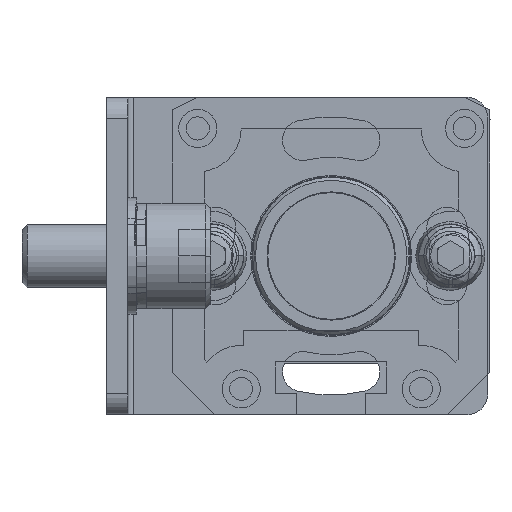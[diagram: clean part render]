
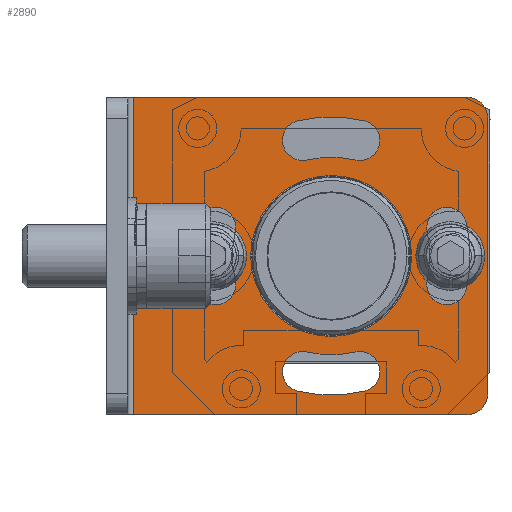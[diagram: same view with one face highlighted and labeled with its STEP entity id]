
A CAD part, front view. The second image highlights one B-rep face of the part: STEP entity #2890.
In plain terms, the highlighted planar face has unit normal (0, -1, 0).
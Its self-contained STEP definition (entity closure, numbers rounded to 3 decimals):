
#692=LINE('',#40670,#1452);
#697=LINE('',#40682,#1457);
#703=LINE('',#40698,#1463);
#707=LINE('',#40722,#1467);
#1452=VECTOR('',#13263,1.);
#1457=VECTOR('',#13272,1.);
#1463=VECTOR('',#13290,1.);
#1467=VECTOR('',#13320,1.);
#1962=PLANE('',#11082);
#2299=FACE_BOUND('',#4309,.T.);
#2300=FACE_BOUND('',#4310,.T.);
#2301=FACE_BOUND('',#4311,.T.);
#2302=FACE_BOUND('',#4312,.T.);
#2303=FACE_BOUND('',#4313,.T.);
#2304=FACE_BOUND('',#4314,.T.);
#2890=ADVANCED_FACE('',(#2299,#2300,#2301,#2302,#2303,#2304),#1962,.T.);
#4309=EDGE_LOOP('',(#6781,#6782,#6783,#6784));
#4310=EDGE_LOOP('',(#6785,#6786,#6787,#6788));
#4311=EDGE_LOOP('',(#6789,#6790,#6791,#6792));
#4312=EDGE_LOOP('',(#6793));
#4313=EDGE_LOOP('',(#6794,#6795,#6796,#6797));
#4314=EDGE_LOOP('',(#6798,#6799,#6800,#6801,#6802,#6803));
#6781=ORIENTED_EDGE('',*,*,#9603,.T.);
#6782=ORIENTED_EDGE('',*,*,#9604,.T.);
#6783=ORIENTED_EDGE('',*,*,#9542,.T.);
#6784=ORIENTED_EDGE('',*,*,#9605,.T.);
#6785=ORIENTED_EDGE('',*,*,#9606,.T.);
#6786=ORIENTED_EDGE('',*,*,#9546,.T.);
#6787=ORIENTED_EDGE('',*,*,#9607,.T.);
#6788=ORIENTED_EDGE('',*,*,#9550,.T.);
#6789=ORIENTED_EDGE('',*,*,#9608,.T.);
#6790=ORIENTED_EDGE('',*,*,#9554,.T.);
#6791=ORIENTED_EDGE('',*,*,#9609,.T.);
#6792=ORIENTED_EDGE('',*,*,#9558,.T.);
#6793=ORIENTED_EDGE('',*,*,#9563,.T.);
#6794=ORIENTED_EDGE('',*,*,#9610,.T.);
#6795=ORIENTED_EDGE('',*,*,#9611,.T.);
#6796=ORIENTED_EDGE('',*,*,#9612,.T.);
#6797=ORIENTED_EDGE('',*,*,#9564,.T.);
#6798=ORIENTED_EDGE('',*,*,#9613,.T.);
#6799=ORIENTED_EDGE('',*,*,#9614,.T.);
#6800=ORIENTED_EDGE('',*,*,#9598,.F.);
#6801=ORIENTED_EDGE('',*,*,#9584,.T.);
#6802=ORIENTED_EDGE('',*,*,#9590,.F.);
#6803=ORIENTED_EDGE('',*,*,#9615,.T.);
#8262=VERTEX_POINT('',#40580);
#8263=VERTEX_POINT('',#40581);
#8266=VERTEX_POINT('',#40589);
#8267=VERTEX_POINT('',#40590);
#8270=VERTEX_POINT('',#40598);
#8271=VERTEX_POINT('',#40599);
#8274=VERTEX_POINT('',#40607);
#8275=VERTEX_POINT('',#40608);
#8278=VERTEX_POINT('',#40616);
#8279=VERTEX_POINT('',#40617);
#8283=VERTEX_POINT('',#40627);
#8284=VERTEX_POINT('',#40630);
#8285=VERTEX_POINT('',#40631);
#8298=VERTEX_POINT('',#40667);
#8299=VERTEX_POINT('',#40669);
#8304=VERTEX_POINT('',#40681);
#8309=VERTEX_POINT('',#40699);
#8312=VERTEX_POINT('',#40709);
#8313=VERTEX_POINT('',#40710);
#8314=VERTEX_POINT('',#40718);
#8315=VERTEX_POINT('',#40720);
#8316=VERTEX_POINT('',#40723);
#8317=VERTEX_POINT('',#40724);
#9542=EDGE_CURVE('',#8262,#8263,#10244,.T.);
#9546=EDGE_CURVE('',#8266,#8267,#10246,.T.);
#9550=EDGE_CURVE('',#8270,#8271,#10248,.T.);
#9554=EDGE_CURVE('',#8274,#8275,#10250,.T.);
#9558=EDGE_CURVE('',#8278,#8279,#10252,.T.);
#9563=EDGE_CURVE('',#8283,#8283,#10255,.T.);
#9564=EDGE_CURVE('',#8284,#8285,#10256,.T.);
#9584=EDGE_CURVE('',#8298,#8299,#692,.T.);
#9590=EDGE_CURVE('',#8304,#8299,#697,.T.);
#9598=EDGE_CURVE('',#8298,#8309,#703,.T.);
#9603=EDGE_CURVE('',#8312,#8313,#10268,.T.);
#9604=EDGE_CURVE('',#8313,#8262,#10269,.T.);
#9605=EDGE_CURVE('',#8263,#8312,#10270,.T.);
#9606=EDGE_CURVE('',#8271,#8266,#10271,.T.);
#9607=EDGE_CURVE('',#8267,#8270,#10272,.T.);
#9608=EDGE_CURVE('',#8279,#8274,#10273,.T.);
#9609=EDGE_CURVE('',#8275,#8278,#10274,.T.);
#9610=EDGE_CURVE('',#8285,#8314,#10275,.T.);
#9611=EDGE_CURVE('',#8314,#8315,#10276,.T.);
#9612=EDGE_CURVE('',#8315,#8284,#10277,.T.);
#9613=EDGE_CURVE('',#8316,#8317,#707,.T.);
#9614=EDGE_CURVE('',#8317,#8309,#10278,.T.);
#9615=EDGE_CURVE('',#8304,#8316,#10279,.T.);
#10244=CIRCLE('',#11028,1.9);
#10246=CIRCLE('',#11031,13.15);
#10248=CIRCLE('',#11034,9.35);
#10250=CIRCLE('',#11037,1.9);
#10252=CIRCLE('',#11040,1.9);
#10255=CIRCLE('',#11044,7.6);
#10256=CIRCLE('',#11046,1.9);
#10268=CIRCLE('',#11070,1.9);
#10269=CIRCLE('',#11071,13.15);
#10270=CIRCLE('',#11072,9.35);
#10271=CIRCLE('',#11073,1.9);
#10272=CIRCLE('',#11074,1.9);
#10273=CIRCLE('',#11075,13.15);
#10274=CIRCLE('',#11076,9.35);
#10275=CIRCLE('',#11077,13.15);
#10276=CIRCLE('',#11078,1.9);
#10277=CIRCLE('',#11079,9.35);
#10278=CIRCLE('',#11080,2.);
#10279=CIRCLE('',#11081,2.);
#11028=AXIS2_PLACEMENT_3D('',#40579,#13179,#13180);
#11031=AXIS2_PLACEMENT_3D('',#40588,#13187,#13188);
#11034=AXIS2_PLACEMENT_3D('',#40597,#13195,#13196);
#11037=AXIS2_PLACEMENT_3D('',#40606,#13203,#13204);
#11040=AXIS2_PLACEMENT_3D('',#40615,#13211,#13212);
#11044=AXIS2_PLACEMENT_3D('',#40626,#13221,#13222);
#11046=AXIS2_PLACEMENT_3D('',#40629,#13225,#13226);
#11070=AXIS2_PLACEMENT_3D('',#40708,#13300,#13301);
#11071=AXIS2_PLACEMENT_3D('',#40711,#13302,#13303);
#11072=AXIS2_PLACEMENT_3D('',#40712,#13304,#13305);
#11073=AXIS2_PLACEMENT_3D('',#40713,#13306,#13307);
#11074=AXIS2_PLACEMENT_3D('',#40714,#13308,#13309);
#11075=AXIS2_PLACEMENT_3D('',#40715,#13310,#13311);
#11076=AXIS2_PLACEMENT_3D('',#40716,#13312,#13313);
#11077=AXIS2_PLACEMENT_3D('',#40717,#13314,#13315);
#11078=AXIS2_PLACEMENT_3D('',#40719,#13316,#13317);
#11079=AXIS2_PLACEMENT_3D('',#40721,#13318,#13319);
#11080=AXIS2_PLACEMENT_3D('',#40725,#13321,#13322);
#11081=AXIS2_PLACEMENT_3D('',#40726,#13323,#13324);
#11082=AXIS2_PLACEMENT_3D('',#40727,#13325,#13326);
#13179=DIRECTION('',(0.,1.,0.));
#13180=DIRECTION('',(0.,0.,1.));
#13187=DIRECTION('',(0.,1.,0.));
#13188=DIRECTION('',(0.,0.,1.));
#13195=DIRECTION('',(0.,-1.,0.));
#13196=DIRECTION('',(0.,0.,1.));
#13203=DIRECTION('',(0.,1.,0.));
#13204=DIRECTION('',(0.,0.,1.));
#13211=DIRECTION('',(0.,1.,0.));
#13212=DIRECTION('',(0.,0.,1.));
#13221=DIRECTION('',(0.,1.,0.));
#13222=DIRECTION('',(0.,0.,1.));
#13225=DIRECTION('',(0.,1.,0.));
#13226=DIRECTION('',(0.,0.,1.));
#13263=DIRECTION('',(0.,0.,-1.));
#13272=DIRECTION('',(-1.,0.,0.));
#13290=DIRECTION('',(1.,0.,0.));
#13300=DIRECTION('',(0.,1.,0.));
#13301=DIRECTION('',(0.,0.,1.));
#13302=DIRECTION('',(0.,1.,0.));
#13303=DIRECTION('',(0.,0.,1.));
#13304=DIRECTION('',(0.,-1.,0.));
#13305=DIRECTION('',(0.,0.,1.));
#13306=DIRECTION('',(0.,1.,0.));
#13307=DIRECTION('',(0.,0.,1.));
#13308=DIRECTION('',(0.,1.,0.));
#13309=DIRECTION('',(0.,0.,1.));
#13310=DIRECTION('',(0.,1.,0.));
#13311=DIRECTION('',(0.,0.,1.));
#13312=DIRECTION('',(0.,-1.,0.));
#13313=DIRECTION('',(0.,0.,1.));
#13314=DIRECTION('',(0.,1.,0.));
#13315=DIRECTION('',(0.,0.,1.));
#13316=DIRECTION('',(0.,1.,0.));
#13317=DIRECTION('',(0.,0.,1.));
#13318=DIRECTION('',(0.,-1.,0.));
#13319=DIRECTION('',(0.,0.,1.));
#13320=DIRECTION('',(0.,0.,1.));
#13321=DIRECTION('',(0.,-1.,0.));
#13322=DIRECTION('',(0.,0.,-1.));
#13323=DIRECTION('',(0.,-1.,0.));
#13324=DIRECTION('',(0.,0.,1.));
#13325=DIRECTION('',(0.,-1.,0.));
#13326=DIRECTION('',(-1.,0.,0.));
#40579=CARTESIAN_POINT('',(-110.921,-1008.,2.851));
#40580=CARTESIAN_POINT('',(-112.765,-1008.,3.307));
#40581=CARTESIAN_POINT('',(-109.077,-1008.,2.395));
#40588=CARTESIAN_POINT('',(-100.,-1008.,0.15));
#40589=CARTESIAN_POINT('',(-103.157,-1008.,12.915));
#40590=CARTESIAN_POINT('',(-96.843,-1008.,12.915));
#40597=CARTESIAN_POINT('',(-100.,-1008.,0.15));
#40598=CARTESIAN_POINT('',(-97.755,-1008.,9.227));
#40599=CARTESIAN_POINT('',(-102.245,-1008.,9.227));
#40606=CARTESIAN_POINT('',(-102.701,-1008.,-10.771));
#40607=CARTESIAN_POINT('',(-103.157,-1008.,-12.615));
#40608=CARTESIAN_POINT('',(-102.245,-1008.,-8.927));
#40615=CARTESIAN_POINT('',(-97.299,-1008.,-10.771));
#40616=CARTESIAN_POINT('',(-97.755,-1008.,-8.927));
#40617=CARTESIAN_POINT('',(-96.843,-1008.,-12.615));
#40626=CARTESIAN_POINT('',(-100.,-1008.,0.15));
#40627=CARTESIAN_POINT('',(-100.,-1008.,7.75));
#40629=CARTESIAN_POINT('',(-89.079,-1008.,2.851));
#40630=CARTESIAN_POINT('',(-90.923,-1008.,2.395));
#40631=CARTESIAN_POINT('',(-87.235,-1008.,3.307));
#40667=CARTESIAN_POINT('',(-118.7,-1008.,15.15));
#40669=CARTESIAN_POINT('',(-118.7,-1008.,-14.85));
#40670=CARTESIAN_POINT('',(-118.7,-1008.,15.15));
#40681=CARTESIAN_POINT('',(-87.2,-1008.,-14.85));
#40682=CARTESIAN_POINT('',(-118.7,-1008.,-14.85));
#40698=CARTESIAN_POINT('',(-118.7,-1008.,15.15));
#40699=CARTESIAN_POINT('',(-87.2,-1008.,15.15));
#40708=CARTESIAN_POINT('',(-110.921,-1008.,-2.551));
#40709=CARTESIAN_POINT('',(-109.077,-1008.,-2.095));
#40710=CARTESIAN_POINT('',(-112.765,-1008.,-3.007));
#40711=CARTESIAN_POINT('',(-100.,-1008.,0.15));
#40712=CARTESIAN_POINT('',(-100.,-1008.,0.15));
#40713=CARTESIAN_POINT('',(-102.701,-1008.,11.071));
#40714=CARTESIAN_POINT('',(-97.299,-1008.,11.071));
#40715=CARTESIAN_POINT('',(-100.,-1008.,0.15));
#40716=CARTESIAN_POINT('',(-100.,-1008.,0.15));
#40717=CARTESIAN_POINT('',(-100.,-1008.,0.15));
#40718=CARTESIAN_POINT('',(-87.235,-1008.,-3.007));
#40719=CARTESIAN_POINT('',(-89.079,-1008.,-2.551));
#40720=CARTESIAN_POINT('',(-90.923,-1008.,-2.095));
#40721=CARTESIAN_POINT('',(-100.,-1008.,0.15));
#40722=CARTESIAN_POINT('',(-85.2,-1008.,15.15));
#40723=CARTESIAN_POINT('',(-85.2,-1008.,-12.85));
#40724=CARTESIAN_POINT('',(-85.2,-1008.,13.15));
#40725=CARTESIAN_POINT('',(-87.2,-1008.,13.15));
#40726=CARTESIAN_POINT('',(-87.2,-1008.,-12.85));
#40727=CARTESIAN_POINT('',(-85.2,-1008.,15.15));
